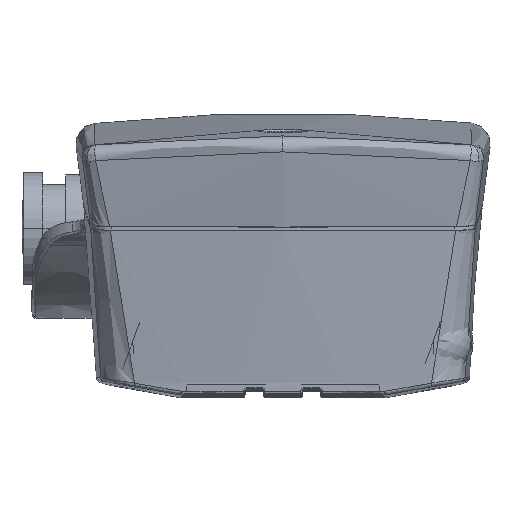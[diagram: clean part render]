
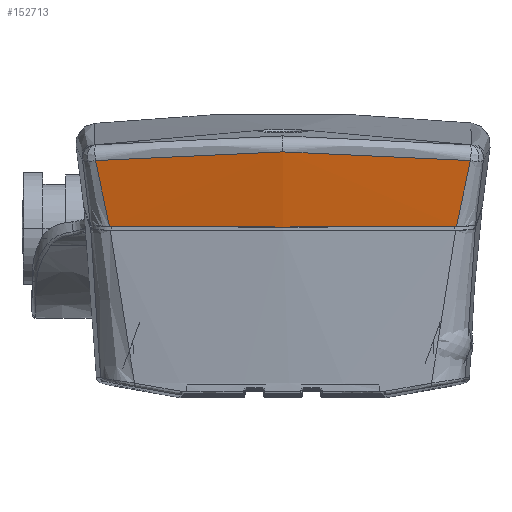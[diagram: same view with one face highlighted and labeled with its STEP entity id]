
A CAD part, top view. The second image highlights one B-rep face of the part: STEP entity #152713.
In plain terms, the highlighted toroidal (fillet/blend) face has major radius 752.4 mm and minor radius 299.987 mm.
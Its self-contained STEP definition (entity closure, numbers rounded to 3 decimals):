
#567=CARTESIAN_POINT('',(-49.269,61.844,213.831));
#576=CARTESIAN_POINT('',(0.,64.132,217.025));
#595=CARTESIAN_POINT('',(49.269,61.844,213.831));
#927=CARTESIAN_POINT('',(-45.606,44.523,210.63));
#56382=CARTESIAN_POINT('',(45.606,44.523,210.63));
#56383=CARTESIAN_POINT('',(40.553,44.483,211.13));
#56384=CARTESIAN_POINT('',(30.437,44.416,211.962));
#56385=CARTESIAN_POINT('',(15.225,44.355,212.713));
#56386=CARTESIAN_POINT('',(5.077,44.341,212.88));
#56387=CARTESIAN_POINT('',(0.,44.341,212.88));
#56392=CARTESIAN_POINT('',(0.,44.341,212.88));
#56393=CARTESIAN_POINT('',(-5.077,44.341,
212.88));
#56394=CARTESIAN_POINT('',(-15.225,44.355,
212.713));
#56395=CARTESIAN_POINT('',(-30.437,44.416,
211.962));
#56396=CARTESIAN_POINT('',(-40.553,44.483,
211.13));
#56397=CARTESIAN_POINT('',(-45.606,44.523,
210.63));
#56402=CARTESIAN_POINT('',(-45.606,44.523,
210.63));
#56403=CARTESIAN_POINT('',(-46.747,50.333,
211.538));
#56404=CARTESIAN_POINT('',(-47.971,56.109,
212.606));
#56405=CARTESIAN_POINT('',(-49.269,61.844,
213.831));
#56410=CARTESIAN_POINT('',(-49.269,61.844,
213.831));
#56411=CARTESIAN_POINT('',(-32.985,63.361,
215.944));
#56412=CARTESIAN_POINT('',(-16.492,64.132,
217.025));
#56413=CARTESIAN_POINT('',(0.,64.132,
217.025));
#56418=CARTESIAN_POINT('',(0.,64.132,
217.025));
#56419=CARTESIAN_POINT('',(16.492,64.132,217.025));
#56420=CARTESIAN_POINT('',(32.985,63.361,215.944));
#56421=CARTESIAN_POINT('',(49.269,61.844,213.831));
#56426=CARTESIAN_POINT('',(49.269,61.844,213.831));
#56427=CARTESIAN_POINT('',(47.971,56.109,212.606));
#56428=CARTESIAN_POINT('',(46.747,50.333,211.538));
#56429=CARTESIAN_POINT('',(45.606,44.523,210.63));
#57808=VERTEX_POINT('',#567);
#57809=VERTEX_POINT('',#576);
#57810=VERTEX_POINT('',#595);
#57836=VERTEX_POINT('',#927);
#57849=VERTEX_POINT('',#56392);
#57850=VERTEX_POINT('',#56382);
#152699=CARTESIAN_POINT('',(0.,-7.233,-244.));
#152700=DIRECTION('',(0.,1.,0.));
#152701=DIRECTION('',(0.,0.,1.));
#152702=AXIS2_PLACEMENT_3D('',#152699,#152700,#152701);
#152703=TOROIDAL_SURFACE('',#152702,752.4,299.987);
#152704=ORIENTED_EDGE('',*,*,#65945,.T.);
#152705=ORIENTED_EDGE('',*,*,#65943,.T.);
#152706=ORIENTED_EDGE('',*,*,#65907,.T.);
#152707=ORIENTED_EDGE('',*,*,#65061,.T.);
#152708=ORIENTED_EDGE('',*,*,#65097,.T.);
#152710=ORIENTED_EDGE('',*,*,#152709,.T.);
#152711=EDGE_LOOP('',(#152704,#152705,#152706,#152707,#152708,#152710));
#152712=FACE_OUTER_BOUND('',#152711,.F.);
#152713=ADVANCED_FACE('',(#152712),#152703,.F.);
#56388=B_SPLINE_CURVE_WITH_KNOTS('',3,(#56382,#56383,#56384,#56385,#56386,
#56387),.UNSPECIFIED.,.F.,.F.,(4,1,1,4),(0.,0.333,
0.667,1.),.UNSPECIFIED.);
#56398=B_SPLINE_CURVE_WITH_KNOTS('',3,(#56392,#56393,#56394,#56395,#56396,
#56397),.UNSPECIFIED.,.F.,.F.,(4,1,1,4),(0.,0.333,
0.667,1.),.UNSPECIFIED.);
#56406=B_SPLINE_CURVE_WITH_KNOTS('',3,(#56402,#56403,#56404,#56405),
.UNSPECIFIED.,.F.,.F.,(4,4),(0.,1.),.UNSPECIFIED.);
#56414=B_SPLINE_CURVE_WITH_KNOTS('',3,(#56410,#56411,#56412,#56413),
.UNSPECIFIED.,.F.,.F.,(4,4),(0.,1.),.UNSPECIFIED.);
#56422=B_SPLINE_CURVE_WITH_KNOTS('',3,(#56418,#56419,#56420,#56421),
.UNSPECIFIED.,.F.,.F.,(4,4),(0.,1.),.UNSPECIFIED.);
#56430=B_SPLINE_CURVE_WITH_KNOTS('',3,(#56426,#56427,#56428,#56429),
.UNSPECIFIED.,.F.,.F.,(4,4),(0.,1.),.UNSPECIFIED.);
#65061=EDGE_CURVE('',#57808,#57809,#56414,.T.);
#65097=EDGE_CURVE('',#57809,#57810,#56422,.T.);
#65907=EDGE_CURVE('',#57836,#57808,#56406,.T.);
#65943=EDGE_CURVE('',#57849,#57836,#56398,.T.);
#65945=EDGE_CURVE('',#57850,#57849,#56388,.T.);
#152709=EDGE_CURVE('',#57810,#57850,#56430,.T.);
